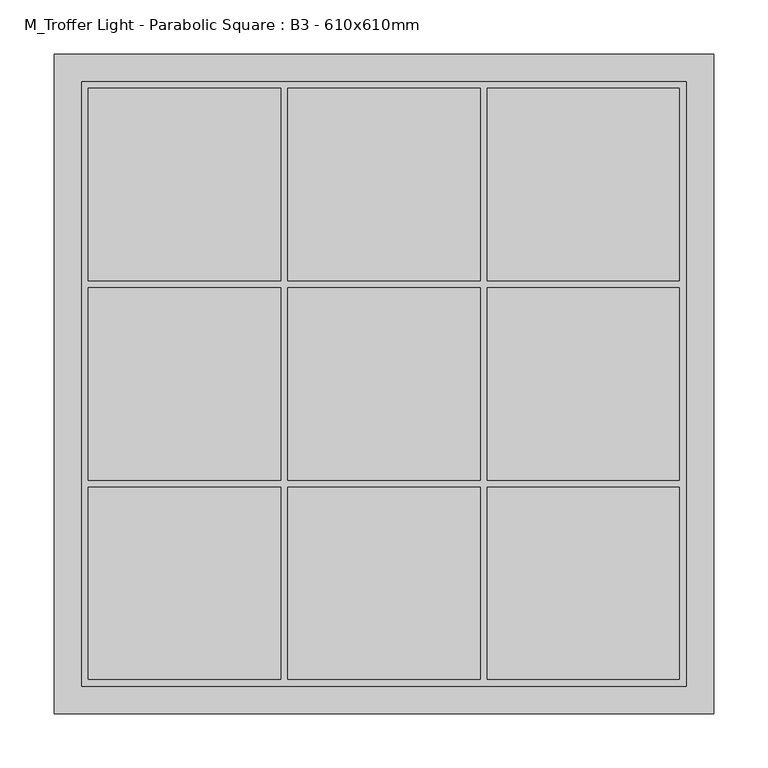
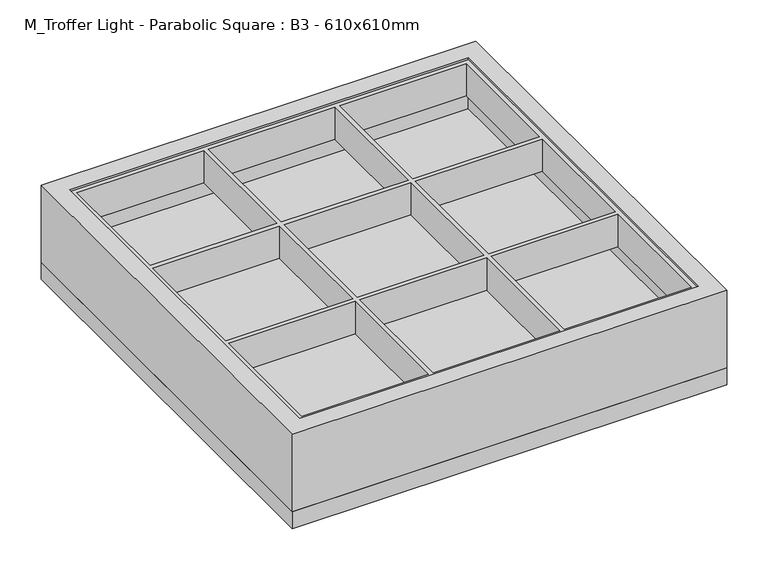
"""IFC4 building model written with IfcOpenShell, lengths in millimetres: light fixture geometry, M_Troffer Light - Parabolic Square : B3 - 610x610mm."""

from ifc_helpers import new_model, si_unit, frame, origin, place, context, project, spatial, polyline, outline, extrude, source, transform, mapped, element, save


def m_troffer_light_parabolic_square_b3_610x610mm_801c9e30(model_context):
    return source(origin(), model_context, "Body", "SweptSolid", [
        extrude(outline(polyline([(279.4, -25.4), (279.4, -584.2), (-279.4, -584.2), (-279.4, -25.4), (279.4, -25.4)]), holes=[polyline([(95.25, -400.05), (95.25, -577.85), (273.05, -577.85), (273.05, -400.05), (95.25, -400.05)]), polyline([(-273.05, -400.05), (-273.05, -577.85), (-95.25, -577.85), (-95.25, -400.05), (-273.05, -400.05)]), polyline([(88.9, -577.85), (88.9, -400.05), (-88.9, -400.05), (-88.9, -577.85), (88.9, -577.85)]), polyline([(-273.05, -31.75), (-273.05, -209.55), (-95.25, -209.55), (-95.25, -31.75), (-273.05, -31.75)]), polyline([(-88.9, -31.75), (-88.9, -209.55), (88.9, -209.55), (88.9, -31.75), (-88.9, -31.75)]), polyline([(95.25, -31.75), (95.25, -209.55), (273.05, -209.55), (273.05, -31.75), (95.25, -31.75)]), polyline([(95.25, -215.9), (95.25, -393.7), (273.05, -393.7), (273.05, -215.9), (95.25, -215.9)]), polyline([(-88.9, -215.9), (-88.9, -393.7), (88.9, -393.7), (88.9, -215.9), (-88.9, -215.9)]), polyline([(-273.05, -215.9), (-273.05, -393.7), (-95.25, -393.7), (-95.25, -215.9), (-273.05, -215.9)])]), frame((0.0, 0.0, -50.8), z_axis=(0.0, 0.0, 1.0), x_axis=(1.0, 0.0, 0.0)), (0.0, 0.0, 1.0), 47.625),
        extrude(outline(polyline([(279.4, -25.4), (279.4, -584.2), (-279.4, -584.2), (-279.4, -25.4), (279.4, -25.4)])), frame((0.0, 0.0, -82.55), z_axis=(0.0, 0.0, 1.0), x_axis=(1.0, 0.0, 0.0)), (0.0, 0.0, 1.0), 6.35),
        extrude(outline(polyline([(-304.8, -609.6), (-304.8, 0.0), (304.8, 0.0), (304.8, -609.6), (-304.8, -609.6)]), holes=[polyline([(279.4, -25.4), (-279.4, -25.4), (-279.4, -584.2), (279.4, -584.2), (279.4, -25.4)])]), frame((0.0, 0.0, -114.3), z_axis=(0.0, 0.0, 1.0), x_axis=(1.0, 0.0, 0.0)), (0.0, 0.0, 1.0), 114.3),
        extrude(outline(polyline([(304.8, 0.0), (304.8, -609.6), (-304.8, -609.6), (-304.8, 0.0), (304.8, 0.0)])), frame((0.0, 0.0, -139.7), z_axis=(0.0, 0.0, 1.0), x_axis=(1.0, 0.0, 0.0)), (0.0, 0.0, 1.0), 25.4),
    ])


if __name__ == "__main__":
    model = new_model("IFC4")
    model_context = context("Model", 3, world=origin())
    ifc_project = project(units=[si_unit("LENGTHUNIT", "METRE", prefix="MILLI")], contexts=[model_context])
    site = spatial("IfcSite", under=ifc_project)
    building = spatial("IfcBuilding", under=site)
    placement = place(None, origin())
    m_troffer_light_parabolic_square_b3_610x610mm_shape = m_troffer_light_parabolic_square_b3_610x610mm_801c9e30(model_context)
    element("IfcLightFixture", 1, ObjectType="M_Troffer Light - Parabolic Square : B3 - 610x610mm", at=placement, inside=building, context=model_context, shape_type="MappedRepresentation", body=[
        mapped(m_troffer_light_parabolic_square_b3_610x610mm_shape, transform((0.0, 0.0, 0.0), x_axis=(1.0, 0.0, 0.0), y_axis=(0.0, 1.0, 0.0), z_axis=(0.0, 0.0, 1.0))),
    ])
    save(model, "model.ifc")
